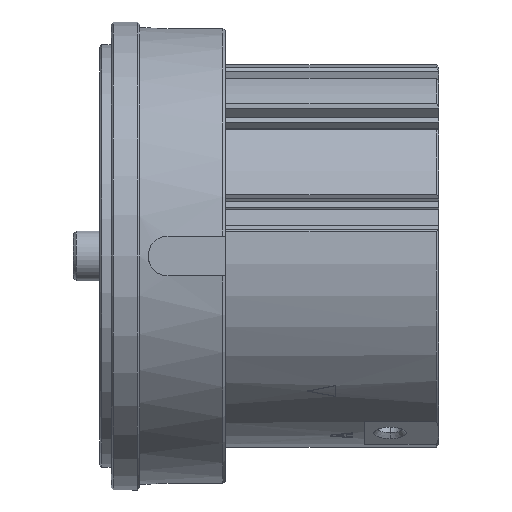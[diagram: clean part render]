
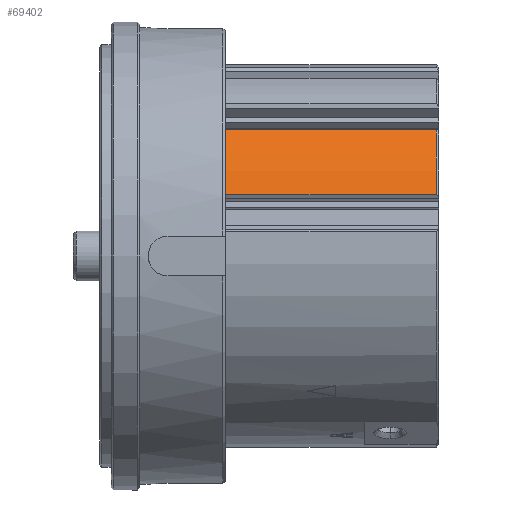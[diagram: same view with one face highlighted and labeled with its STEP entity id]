
A CAD part, left-side view. The second image highlights one B-rep face of the part: STEP entity #69402.
In plain terms, the highlighted cylindrical face has radius 33.5 mm (diameter 67 mm), a partial arc.
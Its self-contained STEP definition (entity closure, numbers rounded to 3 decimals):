
#689 = LINE ( 'NONE', #33463, #60134 ) ;
#2134 = ORIENTED_EDGE ( 'NONE', *, *, #21751, .T. ) ;
#3337 = DIRECTION ( 'NONE',  ( 0., 0., 1. ) ) ;
#3738 = AXIS2_PLACEMENT_3D ( 'NONE', #48791, #8652, #15518 ) ;
#8652 = DIRECTION ( 'NONE',  ( 0., 1., 0. ) ) ;
#11720 = VERTEX_POINT ( 'NONE', #48307 ) ;
#13386 = DIRECTION ( 'NONE',  ( 0., 1., 0. ) ) ;
#13599 = CARTESIAN_POINT ( 'NONE',  ( -31.727, 38., 10.755 ) ) ;
#15518 = DIRECTION ( 'NONE',  ( 0., 0., 1. ) ) ;
#15693 = ORIENTED_EDGE ( 'NONE', *, *, #30614, .T. ) ;
#20552 = EDGE_CURVE ( 'NONE', #78817, #76742, #689, .T. ) ;
#21751 = EDGE_CURVE ( 'NONE', #11720, #54459, #51423, .T. ) ;
#22326 = AXIS2_PLACEMENT_3D ( 'NONE', #71126, #25785, #24919 ) ;
#24919 = DIRECTION ( 'NONE',  ( 0., 0., 1. ) ) ;
#25559 = EDGE_CURVE ( 'NONE', #78817, #54459, #40978, .T. ) ;
#25785 = DIRECTION ( 'NONE',  ( 0., 1., 0. ) ) ;
#30566 = FACE_OUTER_BOUND ( 'NONE', #37034, .T. ) ;
#30614 = EDGE_CURVE ( 'NONE', #76742, #11720, #45491, .T. ) ;
#33463 = CARTESIAN_POINT ( 'NONE',  ( -31.727, 68.366, 10.755 ) ) ;
#35421 = VECTOR ( 'NONE', #13386, 1000. ) ;
#36143 = DIRECTION ( 'NONE',  ( 0., 1., 0. ) ) ;
#37034 = EDGE_LOOP ( 'NONE', ( #15693, #2134, #79636, #50579 ) ) ;
#39987 = AXIS2_PLACEMENT_3D ( 'NONE', #68931, #36143, #3337 ) ;
#40978 = CIRCLE ( 'NONE', #3738, 33.5 ) ;
#45491 = CIRCLE ( 'NONE', #39987, 33.5 ) ;
#47679 = CARTESIAN_POINT ( 'NONE',  ( -31.727, 0.4, 10.755 ) ) ;
#48307 = CARTESIAN_POINT ( 'NONE',  ( -25.178, 0.4, 22.098 ) ) ;
#48791 = CARTESIAN_POINT ( 'NONE',  ( 0., 38., 0. ) ) ;
#50579 = ORIENTED_EDGE ( 'NONE', *, *, #20552, .T. ) ;
#51423 = LINE ( 'NONE', #77718, #35421 ) ;
#52440 = CARTESIAN_POINT ( 'NONE',  ( -25.178, 38., 22.098 ) ) ;
#54459 = VERTEX_POINT ( 'NONE', #52440 ) ;
#59400 = DIRECTION ( 'NONE',  ( 0., -1., 0. ) ) ;
#60134 = VECTOR ( 'NONE', #59400, 1000. ) ;
#68931 = CARTESIAN_POINT ( 'NONE',  ( 0., 0.4, 0. ) ) ;
#69402 = ADVANCED_FACE ( 'NONE', ( #30566 ), #79314, .T. ) ;
#71126 = CARTESIAN_POINT ( 'NONE',  ( 0., 68.366, 0. ) ) ;
#76742 = VERTEX_POINT ( 'NONE', #47679 ) ;
#77718 = CARTESIAN_POINT ( 'NONE',  ( -25.178, 68.366, 22.098 ) ) ;
#78817 = VERTEX_POINT ( 'NONE', #13599 ) ;
#79314 = CYLINDRICAL_SURFACE ( 'NONE', #22326, 33.5 ) ;
#79636 = ORIENTED_EDGE ( 'NONE', *, *, #25559, .F. ) ;
